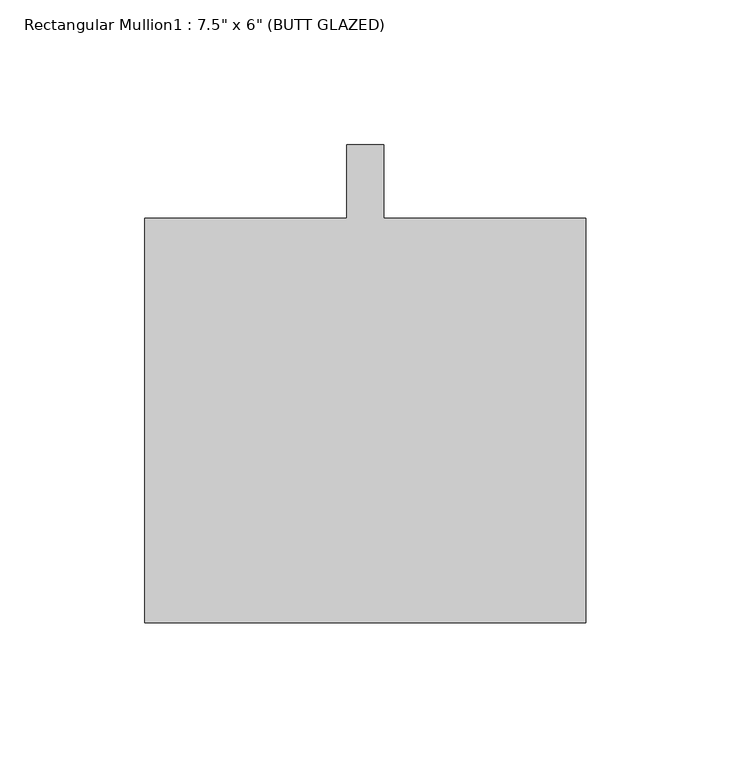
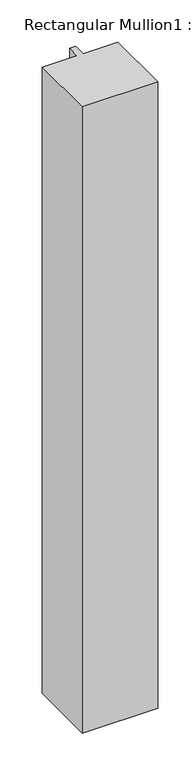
"""IFC4 building model written with IfcOpenShell, lengths in millimetres: member geometry."""

from ifc_helpers import new_model, si_unit, frame, origin, place, context, project, spatial, polyline, outline, extrude, source, transform, mapped, element, save


def member_7b093796(model_context):
    return source(origin(), model_context, "Body", "SweptSolid", [
        extrude(outline(polyline([(76.2, -165.1), (-76.2, -165.1), (-76.2, -25.4), (-6.35, -25.4), (-6.35, 0.0), (6.35, 0.0), (6.35, -25.4), (76.2, -25.4), (76.2, -165.1)])), frame((0.0, 0.0, -1334.7351639), z_axis=(0.0, 0.0, 1.0), x_axis=(1.0, 0.0, 0.0)), (0.0, 0.0, 1.0), 1334.7351639),
    ])


if __name__ == "__main__":
    model = new_model("IFC4")
    model_context = context("Model", 3, world=origin())
    ifc_project = project(units=[si_unit("LENGTHUNIT", "METRE", prefix="MILLI")], contexts=[model_context])
    site = spatial("IfcSite", under=ifc_project)
    building = spatial("IfcBuilding", under=site)
    placement = place(None, origin())
    member_shape = member_7b093796(model_context)
    element("IfcMember", 1, ObjectType="Rectangular Mullion1 : 7.5\" x 6\" (BUTT GLAZED)", at=placement, inside=building, context=model_context, shape_type="MappedRepresentation", body=[
        mapped(member_shape, transform((0.0, 0.0, 0.0), x_axis=(1.0, 0.0, 0.0), y_axis=(0.0, 1.0, 0.0), z_axis=(0.0, 0.0, 1.0))),
    ])
    save(model, "model.ifc")
